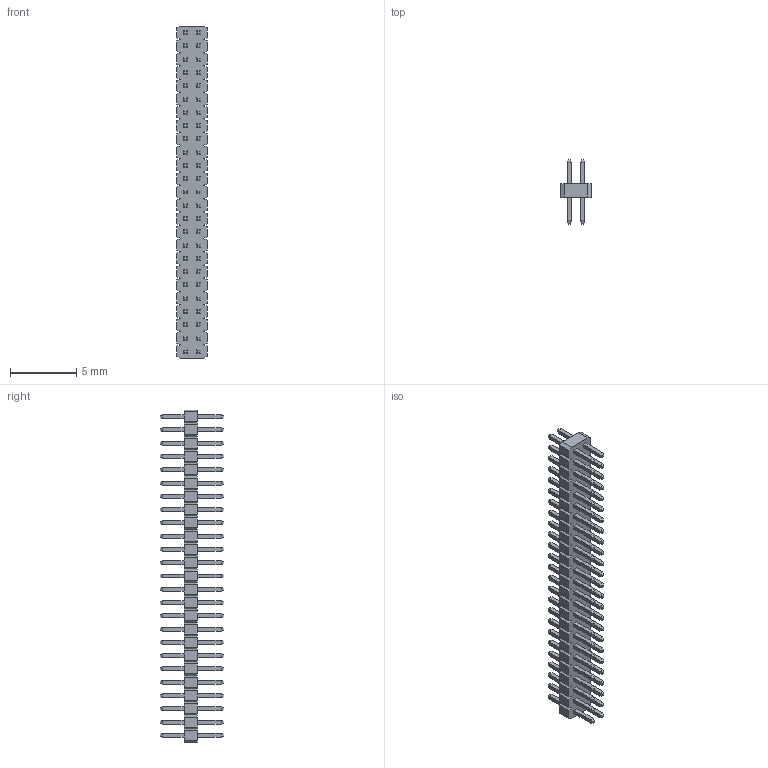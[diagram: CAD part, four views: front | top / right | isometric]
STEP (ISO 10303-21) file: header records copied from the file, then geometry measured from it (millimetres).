
FILE_DESCRIPTION (( 'STEP AP203' ), '1' );
FILE_NAME ('PZ100-2-25-Z-1.0-XX(L5.1) (1.00 邧齬 俔齬渀 呿詢1.0-HCTL).STEP', '2026-03-24T02:19:33', ( '' ), ( '' ), 'SwSTEP 2.0', 'SolidWorks 2025', '' );
FILE_SCHEMA (( 'CONFIG_CONTROL_DESIGN' ));
Length unit declared in the file: millimetre
Products named in the file (1): PZ100-2-25-Z-1.0-XX(L5.1) (1.00 双排 弯排针 塑高1.0-HCTL)
Bounding box: 2.3 x 4.8 x 25 mm (x, y, z)
Volume: 72.1 mm3; surface area: 398.7 mm2
Topology: 1 solids, 1 shells, 1054 faces, 2456 edges, 1504 vertices
Faces by surface type: plane 1054
Entity records: 28917 total; most frequent: CARTESIAN_POINT 5015, ORIENTED_EDGE 4912, DIRECTION 4566, VECTOR 2456, LINE 2456, EDGE_CURVE 2456, VERTEX_POINT 1504, EDGE_LOOP 1154
